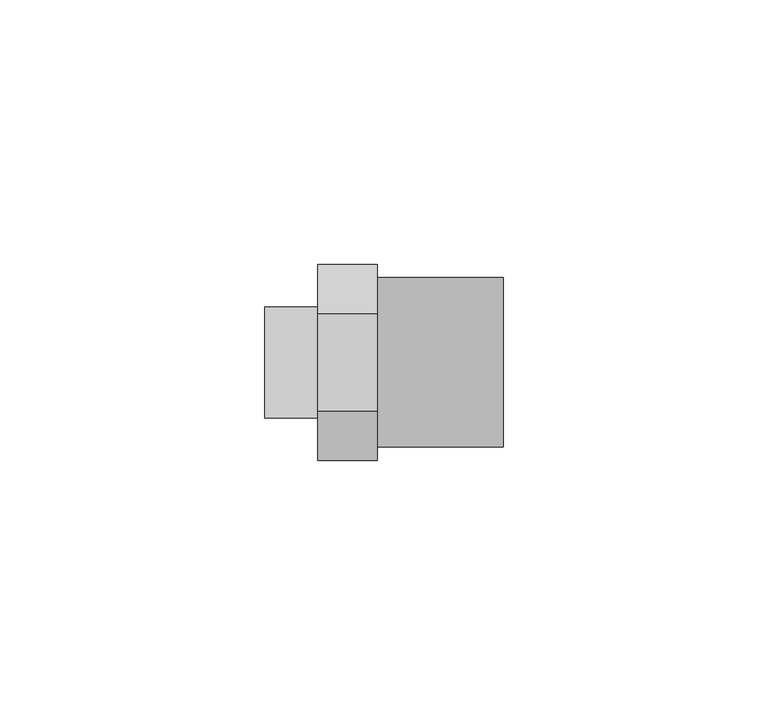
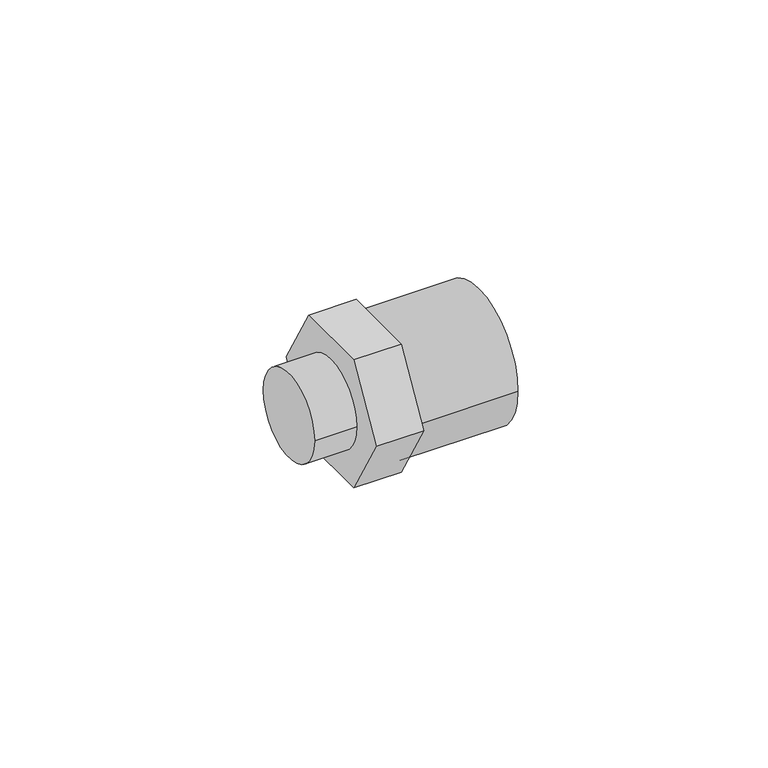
"""IFC4 building model written with IfcOpenShell, lengths in millimetres: pipe fitting geometry, 01101008 : Uniões múltiplas F/M/F."""

from ifc_helpers import new_model, si_unit, point, frame, origin, origin_2d, place, context, project, spatial, polyline, circle_curve, trimmed, segment, composite_curve, outline, extrude, source, transform, mapped, element, save


def pipe_fitting_7b69a853(model_context):
    return source(origin(), model_context, "Body", "SweptSolid", [
        extrude(outline(composite_curve([segment(trimmed(circle_curve(origin_2d(), 10.5), [point((10.5, 0.0))], [point((-10.5, 0.0))], False, "CARTESIAN"), True, "CONTINUOUS"), segment(trimmed(circle_curve(origin_2d(), 10.5), [point((-10.5, 0.0))], [point((10.5, 0.0))], False, "CARTESIAN"), True, "CONTINUOUS")], self_intersect=False)), frame((0.0, 0.0, 0.0), z_axis=(1.0, 0.0, 0.0), x_axis=(0.0, 1.0, 0.0)), (0.0, 0.0, 1.0), 10.0),
        extrude(outline(polyline([(-9.2376043, 16.0), (9.2376043, 16.0), (18.4752086, 0.0), (9.2376043, -16.0), (-9.2376043, -16.0), (-18.4752086, 0.0), (-9.2376043, 16.0)])), frame((10.0, 0.0, 0.0), z_axis=(1.0, 0.0, 0.0), x_axis=(0.0, 1.0, 0.0)), (0.0, 0.0, 1.0), 11.25),
        extrude(outline(composite_curve([segment(trimmed(circle_curve(origin_2d(), 16.0), [point((-16.0, 0.0))], [point((16.0, 0.0))], False, "CARTESIAN"), True, "CONTINUOUS"), segment(trimmed(circle_curve(origin_2d(), 16.0), [point((16.0, 0.0))], [point((-16.0, 0.0))], False, "CARTESIAN"), True, "CONTINUOUS")], self_intersect=False)), frame((21.25, 0.0, 0.0), z_axis=(1.0, 0.0, 0.0), x_axis=(0.0, 1.0, 0.0)), (0.0, 0.0, 1.0), 23.75),
    ])


if __name__ == "__main__":
    model = new_model("IFC4")
    model_context = context("Model", 3, world=origin())
    ifc_project = project(units=[si_unit("LENGTHUNIT", "METRE", prefix="MILLI")], contexts=[model_context])
    site = spatial("IfcSite", under=ifc_project)
    building = spatial("IfcBuilding", under=site)
    placement = place(None, origin())
    pipe_fitting_shape = pipe_fitting_7b69a853(model_context)
    element("IfcPipeFitting", 1, ObjectType="01101008 : Uniões múltiplas F/M/F", at=placement, inside=building, context=model_context, shape_type="MappedRepresentation", body=[
        mapped(pipe_fitting_shape, transform((0.0, 0.0, 0.0), x_axis=(1.0, 0.0, 0.0), y_axis=(0.0, 1.0, 0.0), z_axis=(0.0, 0.0, 1.0))),
    ])
    save(model, "model.ifc")
